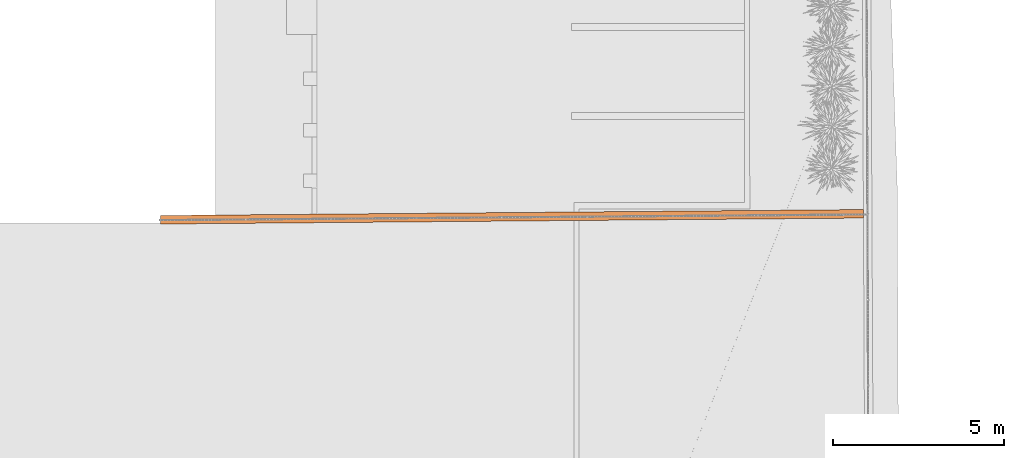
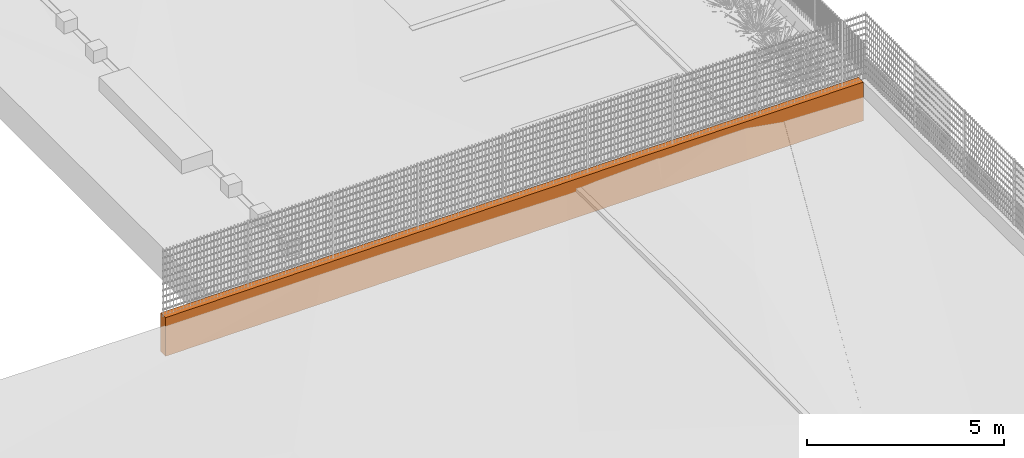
# One storey, part 14 of 1809: 1 proxy.
"""IFC2X3 building model written with IfcOpenShell, lengths in millimetres."""

from ifc_helpers import new_model, entity, si_unit, converted_unit, derived_unit, money_unit, direction, frame, origin_with_axes, place, context, subcontext, project, spatial, polyline, outline, extrude, material, type_object, element, save


model = new_model("IFC2X3")

# Units and contexts
model_context = context("Model", 3, precision=0.01, world=origin_with_axes(), true_north=direction((0.0, 1.0)))
body_context = subcontext(model_context, "Body", "Model", "MODEL_VIEW")
ifc_project = project(units=[si_unit("LENGTHUNIT", "METRE", prefix="MILLI"), si_unit("AREAUNIT", "SQUARE_METRE"), si_unit("VOLUMEUNIT", "CUBIC_METRE"), converted_unit("PLANEANGLEUNIT", "DEGREE", entity("IfcPlaneAngleMeasure", 0.0174532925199), si_unit("PLANEANGLEUNIT", "RADIAN"), dimensions=[0, 0, 0, 0, 0, 0, 0]), si_unit("SOLIDANGLEUNIT", "STERADIAN"), money_unit("EUR"), converted_unit("TIMEUNIT", "Year", entity("IfcTimeMeasure", 31556926.0), si_unit("TIMEUNIT", "SECOND"), dimensions=[0, 0, 1, 0, 0, 0, 0]), si_unit("MASSUNIT", "GRAM", prefix="KILO"), si_unit("THERMODYNAMICTEMPERATUREUNIT", "DEGREE_CELSIUS"), si_unit("LUMINOUSINTENSITYUNIT", "LUMEN"), si_unit("ENERGYUNIT", "JOULE", prefix="MEGA"), derived_unit("THERMALCONDUCTANCEUNIT", [(si_unit("POWERUNIT", "WATT"), 1), (si_unit("LENGTHUNIT", "METRE"), -1), (si_unit("THERMODYNAMICTEMPERATUREUNIT", "KELVIN"), -1)]), derived_unit("SPECIFICHEATCAPACITYUNIT", [(si_unit("ENERGYUNIT", "JOULE"), 1), (si_unit("MASSUNIT", "GRAM", prefix="KILO"), -1), (si_unit("THERMODYNAMICTEMPERATUREUNIT", "KELVIN"), -1)]), derived_unit("MASSDENSITYUNIT", [(si_unit("MASSUNIT", "GRAM", prefix="KILO"), 1), (si_unit("VOLUMEUNIT", "CUBIC_METRE"), -1)])], contexts=[model_context])

# Site, building, storey
site_placement = place(None, origin_with_axes())
site = spatial("IfcSite", under=ifc_project, at=site_placement, Name="Politse- ja Piirivalveameti ning Päästeameti ühishoone", CompositionType="ELEMENT")
building_placement = place(site_placement, origin_with_axes())
building = spatial("IfcBuilding", under=site, at=building_placement, Name="Politse- ja Piirivalveameti ning Päästeameti ühishoone", CompositionType="ELEMENT")
storey_placement = place(building_placement, origin_with_axes())
storey = spatial("IfcBuildingStorey", under=building, at=storey_placement, Name="Esimene korrus", CompositionType="ELEMENT", Elevation=0.0)

# Proxy
ifc_material = material(Name="Betoon")
building_element_proxy_type = type_object("IfcBuildingElementProxyType", Name="Betoon 1200", PredefinedType="NOTDEFINED")
proxy_placement = place(storey_placement, frame((68521.1922387, -259.985649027, 177.658425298), z_axis=(0.0, 0.0, 1.0), x_axis=(1.0, 0.0, 0.0)))
element("IfcBuildingElementProxy", 1, at=proxy_placement, inside=storey, type_object=building_element_proxy_type, material=ifc_material, Name="PIIRDEAED", context=body_context, shape_type="SweptSolid", body=[
    extrude(outline(polyline([(0.0, 0.0), (-0.62842387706, -250.014351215), (20572.7626095, -75.300488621), (20571.566022, 174.698364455), (0.0, 0.0)])), frame((0.0, 0.0, -1200.0), z_axis=(0.0, 0.0, 1.0), x_axis=(1.0, 0.0, 0.0)), (0.0, 0.0, 1.0), 1200.0),
])

save(model, "model.ifc")
